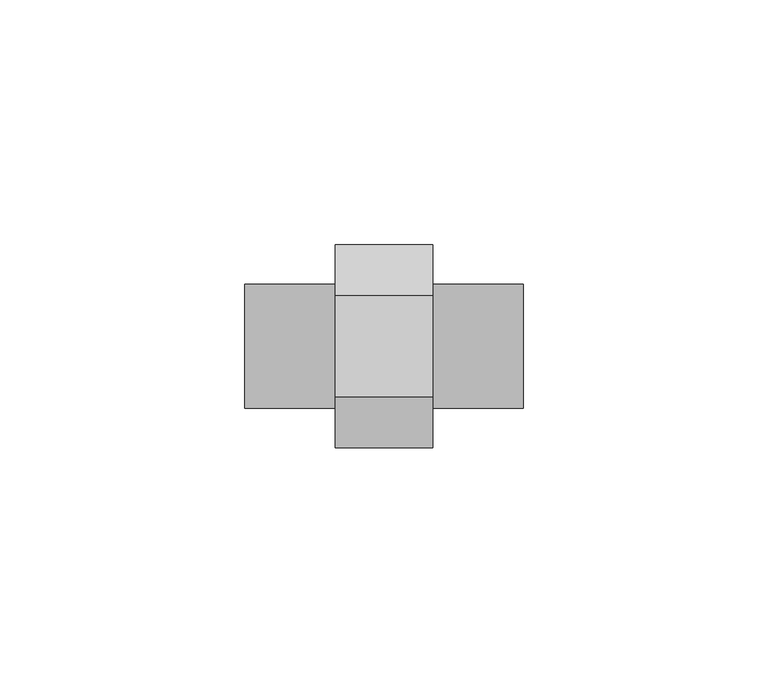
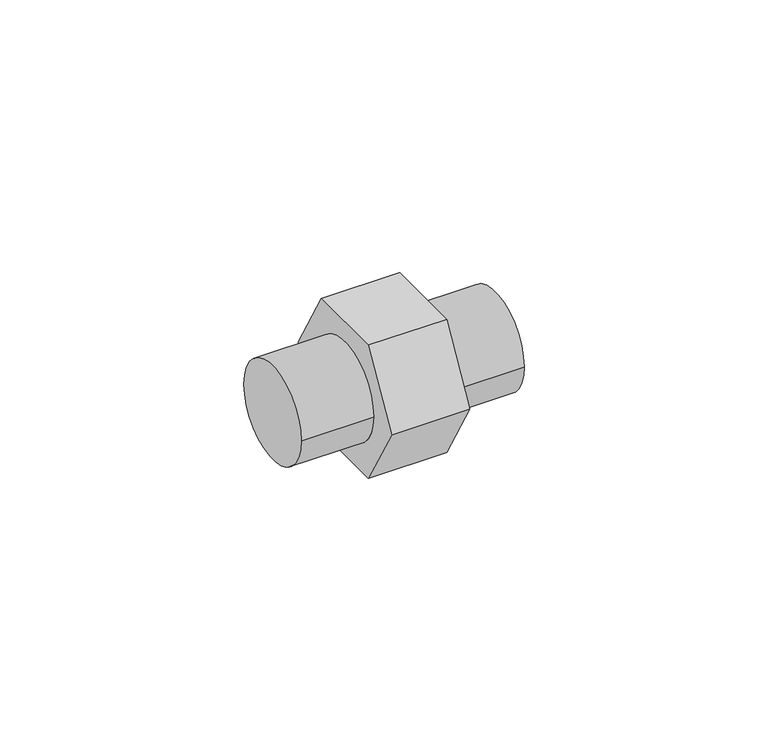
"""IFC4 building model written with IfcOpenShell, lengths in millimetres: pipe fitting geometry, 01011009 : Mamelons doubles."""

import ifcopenshell
import ifcopenshell.guid

model = None  # the IFC model being written
_history = None  # IfcOwnerHistory: only IFC2X3 demands one
_inside = {}  # id of a spatial element -> (the spatial element, [elements in it])
_under = {}  # id of a project, library or spatial element -> (it, [spatial elements below it])
_declared = {}  # id of a project -> (the project, [libraries it declares])
_typed = {}  # id of a type object -> (the type object, [elements of that type])
_made_of = {}  # id of a material, layer set ... -> (it, [elements and type objects made of it])


def new_model(schema):
    """Start an empty IFC model of exactly this schema.

    Asked for "IFC4X3", IfcOpenShell would pick the latest addendum, in which some entities
    have other attributes; the version numbers below select the first issue.
    IFC2X3 requires an IfcOwnerHistory on every rooted entity: one is made here for all.
    """
    global model, _history
    if schema == "IFC4X3":
        model = ifcopenshell.file(schema_version=(4, 3, 0, 0))
    else:
        model = ifcopenshell.file(schema=schema)
    _inside.clear()
    _under.clear()
    _declared.clear()
    _typed.clear()
    _made_of.clear()
    _history = None
    if model.schema == "IFC2X3":
        org = make("IfcOrganization", Name="unknown")
        user = make(
            "IfcPersonAndOrganization",
            ThePerson=make("IfcPerson", FamilyName="unknown"),
            TheOrganization=org,
        )
        app = make(
            "IfcApplication",
            ApplicationDeveloper=org,
            Version="unknown",
            ApplicationFullName="unknown",
            ApplicationIdentifier="unknown",
        )
        _history = make(
            "IfcOwnerHistory",
            OwningUser=user,
            OwningApplication=app,
            ChangeAction="ADDED",
            CreationDate=0,
        )
    return model


def make(cls, **values):
    """One entity of the class cls with the attributes given. An attribute that is None is left unset."""
    return model.create_entity(
        cls, **{name: value for name, value in values.items() if value is not None}
    )


def rooted(cls, **values):
    """An entity with a GlobalId (a new one), such as an element, a storey or a relation."""
    return make(cls, GlobalId=ifcopenshell.guid.new(), OwnerHistory=_history, **values)


def si_unit(unit_type, name, prefix=None):
    """IfcSIUnit, for example si_unit("LENGTHUNIT", "METRE", prefix="MILLI")."""
    return make("IfcSIUnit", UnitType=unit_type, Prefix=prefix, Name=name)


def assignment(units):
    """IfcUnitAssignment: the units of a project."""
    return None if units is None else make("IfcUnitAssignment", Units=units)


def point(xyz):
    """IfcCartesianPoint."""
    return None if xyz is None else make("IfcCartesianPoint", Coordinates=xyz)


def direction(xyz):
    """IfcDirection."""
    return None if xyz is None else make("IfcDirection", DirectionRatios=xyz)


def frame(location, z_axis=None, x_axis=None):
    """IfcAxis2Placement3D, a coordinate frame: its origin and axes. An axis left out is left unset."""
    return make(
        "IfcAxis2Placement3D",
        Location=point(location),
        Axis=direction(z_axis),
        RefDirection=direction(x_axis),
    )


def origin():
    """The frame at (0, 0, 0) with its axes left unset."""
    return frame((0.0, 0.0, 0.0))


def place(relative_to, where):
    """IfcLocalPlacement: puts the frame where relative to a parent placement (None: the world)."""
    return make(
        "IfcLocalPlacement", PlacementRelTo=relative_to, RelativePlacement=where
    )


def context(
    kind, dimensions, precision=None, world=None, true_north=None, identifier=None
):
    """IfcGeometricRepresentationContext, for example the 3D "Model" context."""
    return make(
        "IfcGeometricRepresentationContext",
        ContextIdentifier=identifier,
        ContextType=kind,
        CoordinateSpaceDimension=dimensions,
        Precision=precision,
        WorldCoordinateSystem=world,
        TrueNorth=true_north,
    )


def project(units=None, contexts=None):
    """IfcProject with its units and contexts."""
    return rooted(
        "IfcProject",
        Name="project",
        RepresentationContexts=contexts,
        UnitsInContext=assignment(units),
    )


def spatial(cls, under=None, at=None, **own):
    """A site, building, storey or space (cls), placed at a placement, below another one or the project."""
    s = rooted(cls, ObjectPlacement=at, **own)
    if under is not None:
        _under.setdefault(under.id(), (under, []))[1].append(s)
    return s


def circle_curve(where, radius):
    """IfcCircle in the frame where."""
    return make("IfcCircle", Position=where, Radius=radius)


def shape(context_of_items, identifier, shape_type, items):
    """IfcShapeRepresentation: the items that make up one representation, for example the "Body"."""
    return make(
        "IfcShapeRepresentation",
        ContextOfItems=context_of_items,
        RepresentationIdentifier=identifier,
        RepresentationType=shape_type,
        Items=items,
    )


def source(mapping_origin, context_of_items, identifier, shape_type, items):
    """IfcRepresentationMap: a shape defined once, which mapped items show again and again."""
    return make(
        "IfcRepresentationMap",
        MappingOrigin=mapping_origin,
        MappedRepresentation=shape(context_of_items, identifier, shape_type, items),
    )


def transform(
    local_origin,
    x_axis=None,
    y_axis=None,
    z_axis=None,
    scale=None,
    scale2=None,
    scale3=None,
    uniform=True,
):
    """IfcCartesianTransformationOperator3D, or its non-uniform kind. x_axis, y_axis, z_axis: its Axis1, 2, 3."""
    if uniform:
        return make(
            "IfcCartesianTransformationOperator3D",
            Axis1=direction(x_axis),
            Axis2=direction(y_axis),
            LocalOrigin=point(local_origin),
            Scale=scale,
            Axis3=direction(z_axis),
        )
    return make(
        "IfcCartesianTransformationOperator3DnonUniform",
        Axis1=direction(x_axis),
        Axis2=direction(y_axis),
        LocalOrigin=point(local_origin),
        Scale=scale,
        Axis3=direction(z_axis),
        Scale2=scale2,
        Scale3=scale3,
    )


def mapped(mapping_source, mapping_target):
    """IfcMappedItem: shows the shape of a source again, moved by a transform."""
    return make(
        "IfcMappedItem", MappingSource=mapping_source, MappingTarget=mapping_target
    )


def made_of(thing, what):
    """Note that an element or type object is made of a material, layer set ...; save() writes the relation."""
    if what is not None:
        _made_of.setdefault(what.id(), (what, []))[1].append(thing)
    return thing


def element(
    cls,
    number,
    at=None,
    inside=None,
    cuts=None,
    type_object=None,
    material=None,
    context=None,
    identifier="Body",
    shape_type=None,
    held_by="IfcProductDefinitionShape",
    body=None,
    shapes=None,
    **own,
):
    """One element of the class cls, such as IfcWall. Its Tag is "e" and its number.

    at: its placement. inside: the storey or other place that contains it. cuts: it is an
    opening in that element (IfcRelVoidsElement). A single representation is given by context,
    identifier, shape_type and body (its items); several are given by shapes. held_by: the class
    of the entity that holds the representations. save() writes the other relations.
    """
    e = rooted(cls, Tag="e%d" % number, ObjectPlacement=at, **own)
    if body is not None:
        shapes = [shape(context, identifier, shape_type, body)]
    if shapes is not None:
        e.Representation = make(held_by, Representations=shapes)
    if inside is not None:
        _inside.setdefault(inside.id(), (inside, []))[1].append(e)
    if cuts is not None:
        rooted(
            "IfcRelVoidsElement", RelatingBuildingElement=cuts, RelatedOpeningElement=e
        )
    if type_object is not None:
        _typed.setdefault(type_object.id(), (type_object, []))[1].append(e)
    return made_of(e, material)


def aggregate(whole, parts):
    """IfcRelAggregates: a whole, such as a stair, and the parts it consists of."""
    return rooted("IfcRelAggregates", RelatingObject=whole, RelatedObjects=parts)


def save(model, path):
    """Write the relations noted so far, then the file.

    IfcRelAggregates (storeys below a building ...), IfcRelContainedInSpatialStructure (elements
    in a storey), IfcRelDefinesByType, IfcRelAssociatesMaterial and IfcRelDeclares: one each for
    every whole, place, type object, material and project.
    """
    for whole, parts in _under.values():
        aggregate(whole, parts)
    for where, things in _inside.values():
        rooted(
            "IfcRelContainedInSpatialStructure",
            RelatedElements=things,
            RelatingStructure=where,
        )
    for kind, things in _typed.values():
        rooted("IfcRelDefinesByType", RelatedObjects=things, RelatingType=kind)
    for what, things in _made_of.values():
        rooted("IfcRelAssociatesMaterial", RelatedObjects=things, RelatingMaterial=what)
    for by, libraries in _declared.values():
        rooted("IfcRelDeclares", RelatingContext=by, RelatedDefinitions=libraries)
    model.write(path)


def plane_surface(at):
    """IfcPlane: the flat surface through the origin of the frame at, square to its z axis."""
    return make("IfcPlane", Position=at)


def cylinder_surface(at, radius):
    """IfcCylindricalSurface: all points at the distance radius from the z axis of the frame at."""
    return make("IfcCylindricalSurface", Position=at, Radius=radius)


def advanced_brep(points, edges, surfaces, faces):
    """IfcAdvancedBrep: a solid bounded by faces that lie on surfaces and meet in shared edges.

    An edge is (start, end): straight between two places in points (the first is 0);
    or (start, end, curve); or (start, end, curve, False) where it runs against its curve.
    A face is (place in surfaces, loops), or (place, loops, False) where it looks against
    its surface's normal. A loop lists edges by number (the first is 1), with a minus sign
    where the edge is run from its end to its start. The first loop is the outer one.
    """
    corners = [point(p) for p in points]
    vertices = [make("IfcVertexPoint", VertexGeometry=c) for c in corners]
    made = []
    for start, end, *more in edges:
        made.append(
            make(
                "IfcEdgeCurve",
                EdgeStart=vertices[start],
                EdgeEnd=vertices[end],
                EdgeGeometry=more[0] if more else make("IfcPolyline", Points=[corners[start], corners[end]]),
                SameSense=more[1] if len(more) > 1 else True,
            )
        )
    hull = []
    for where, loops, *sense in faces:
        bounds = []
        for j, loop in enumerate(loops):
            ring = [make("IfcOrientedEdge", EdgeElement=made[abs(k) - 1], Orientation=k > 0) for k in loop]
            bounds.append(
                make(
                    "IfcFaceOuterBound" if j == 0 else "IfcFaceBound",
                    Bound=make("IfcEdgeLoop", EdgeList=ring),
                    Orientation=True,
                )
            )
        hull.append(make("IfcAdvancedFace", Bounds=bounds, FaceSurface=surfaces[where], SameSense=sense[0] if sense else True))
    return make("IfcAdvancedBrep", Outer=make("IfcClosedShell", CfsFaces=hull))


def pipe_fitting_2bd9def4(model_context):
    return source(origin(), model_context, "Body", "AdvancedBrep", [
        advanced_brep(
        [(10.0, -10.3923048, 18.0), (10.0, -20.7846097, 0.0), (10.0, -10.3923048, -18.0), (10.0, 10.3923048, -18.0), (10.0, 20.7846097, 0.0), (10.0, 10.3923048, 18.0), (10.0, -12.7, 0.0), (10.0, 12.7, 0.0), (-10.0, -10.3923048, 18.0), (-10.0, 10.3923048, 18.0), (-10.0, 20.7846097, 0.0), (-10.0, 10.3923048, -18.0), (-10.0, -10.3923048, -18.0), (-10.0, -20.7846097, 0.0), (-10.0, 12.7, 0.0), (-10.0, -12.7, 0.0), (-28.5, -12.7, 0.0), (-28.5, 12.7, 0.0), (28.5, -12.7, 0.0), (28.5, 12.7, 0.0)],
        [
            (0, 1),
            (1, 2),
            (2, 3),
            (3, 4),
            (4, 5),
            (5, 0),
            (6, 7, circle_curve(frame((10.0, 0.0, 0.0), z_axis=(-1.0, 0.0, 0.0), x_axis=(0.0, 1.0, 0.0)), 12.7)),
            (7, 6, circle_curve(frame((10.0, 0.0, 0.0), z_axis=(-1.0, 0.0, 0.0), x_axis=(0.0, 1.0, 0.0)), 12.7)),
            (8, 9),
            (9, 10),
            (10, 11),
            (11, 12),
            (12, 13),
            (13, 8),
            (14, 15, circle_curve(frame((-10.0, 0.0, 0.0), z_axis=(1.0, 0.0, 0.0), x_axis=(0.0, 1.0, 0.0)), 12.7)),
            (15, 14, circle_curve(frame((-10.0, 0.0, 0.0), z_axis=(1.0, 0.0, 0.0), x_axis=(0.0, 1.0, 0.0)), 12.7)),
            (0, 8),
            (13, 1),
            (12, 2),
            (11, 3),
            (10, 4),
            (9, 5),
            (16, 17, circle_curve(frame((-28.5, 0.0, 0.0), z_axis=(-1.0, 0.0, 0.0), x_axis=(0.0, 1.0, 0.0)), 12.7)),
            (17, 16, circle_curve(frame((-28.5, 0.0, 0.0), z_axis=(-1.0, 0.0, 0.0), x_axis=(0.0, 1.0, 0.0)), 12.7)),
            (18, 19, circle_curve(frame((28.5, 0.0, 0.0), z_axis=(1.0, 0.0, 0.0), x_axis=(0.0, 1.0, 0.0)), 12.7)),
            (19, 18, circle_curve(frame((28.5, 0.0, 0.0), z_axis=(1.0, 0.0, 0.0), x_axis=(0.0, 1.0, 0.0)), 12.7)),
            (16, 15),
            (14, 17),
            (19, 7),
            (6, 18),
        ],
        [
            plane_surface(frame((10.0, -10.3923048, 18.0), z_axis=(1.0000000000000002, 0.0, 0.0), x_axis=(0.0, -0.5000000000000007, -0.8660254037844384))),
            plane_surface(frame((-10.0, -10.3923048, 18.0), z_axis=(-1.0000000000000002, 0.0, 0.0), x_axis=(0.0, 0.5000000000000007, 0.8660254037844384))),
            plane_surface(frame((10.0, -10.3923048, 18.0), z_axis=(0.0, -0.8660254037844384, 0.5000000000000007), x_axis=(-1.0, 0.0, 0.0))),
            plane_surface(frame((10.0, -20.7846097, 0.0), z_axis=(0.0, -0.8660254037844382, -0.500000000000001), x_axis=(-1.0, 0.0, 0.0))),
            plane_surface(frame((10.0, -10.3923048, -18.0), z_axis=(0.0, 0.0, -1.0), x_axis=(-1.0, 0.0, 0.0))),
            plane_surface(frame((10.0, 10.3923048, -18.0), z_axis=(0.0, 0.8660254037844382, -0.500000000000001), x_axis=(-1.0, 0.0, 0.0))),
            plane_surface(frame((10.0, 20.7846097, 0.0), z_axis=(0.0, 0.866025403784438, 0.500000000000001), x_axis=(-1.0, 0.0, 0.0))),
            plane_surface(frame((10.0, 10.3923048, 18.0), z_axis=(0.0, 0.0, 1.0), x_axis=(-1.0, 0.0, 0.0))),
            plane_surface(frame((-28.5, 0.0, 0.0), z_axis=(-1.0, 0.0, 0.0), x_axis=(0.0, 0.0, 1.0))),
            plane_surface(frame((28.5, 0.0, 0.0), z_axis=(1.0, 0.0, 0.0), x_axis=(0.0, 0.0, 1.0))),
            cylinder_surface(frame((-28.5, 0.0, 0.0), z_axis=(-1.0, 0.0, 0.0), x_axis=(0.0, 1.0, 0.0)), 12.7),
        ],
        [
            (0, [[1, 2, 3, 4, 5, 6], [7, 8]]),
            (1, [[9, 10, 11, 12, 13, 14], [15, 16]]),
            (2, [[-1, 17, -14, 18]]),
            (3, [[-2, -18, -13, 19]]),
            (4, [[-3, -19, -12, 20]]),
            (5, [[-4, -20, -11, 21]]),
            (6, [[-5, -21, -10, 22]]),
            (7, [[-6, -22, -9, -17]]),
            (8, [[23, 24]]),
            (9, [[25, 26]]),
            (10, [[-23, 27, -15, 28]]),
            (10, [[-26, 29, -7, 30]]),
            (10, [[-24, -28, -16, -27]]),
            (10, [[-25, -30, -8, -29]]),
        ],
    ),
    ])


if __name__ == "__main__":
    model = new_model("IFC4")
    model_context = context("Model", 3, world=origin())
    ifc_project = project(units=[si_unit("LENGTHUNIT", "METRE", prefix="MILLI")], contexts=[model_context])
    site = spatial("IfcSite", under=ifc_project)
    building = spatial("IfcBuilding", under=site)
    placement = place(None, origin())
    pipe_fitting_shape = pipe_fitting_2bd9def4(model_context)
    element("IfcPipeFitting", 1, ObjectType="01011009 : Mamelons doubles", at=placement, inside=building, context=model_context, shape_type="MappedRepresentation", body=[
        mapped(pipe_fitting_shape, transform((0.0, 0.0, 0.0), x_axis=(1.0, 0.0, 0.0), y_axis=(0.0, 1.0, 0.0), z_axis=(0.0, 0.0, 1.0))),
    ])
    save(model, "model.ifc")
